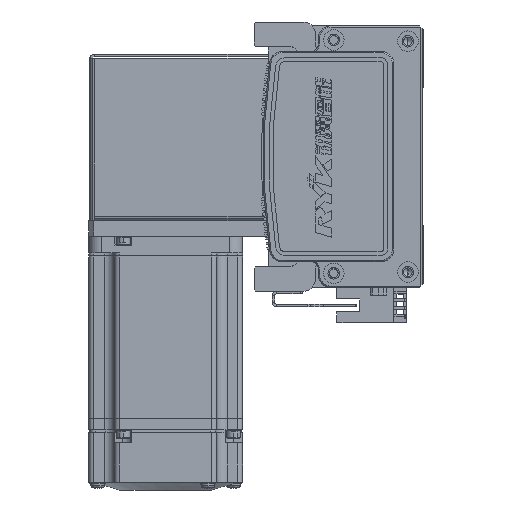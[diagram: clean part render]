
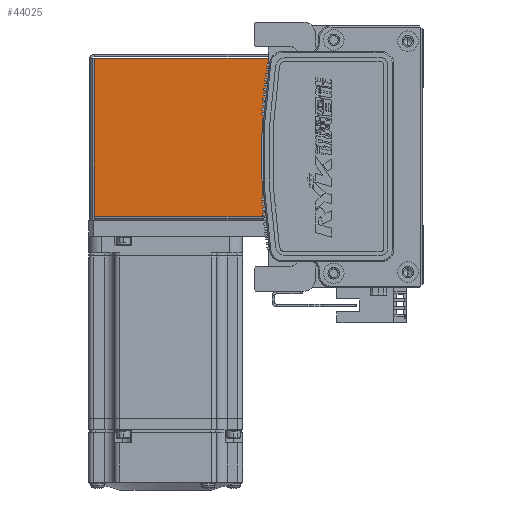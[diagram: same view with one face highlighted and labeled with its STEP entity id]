
A CAD part, left-side view. The second image highlights one B-rep face of the part: STEP entity #44025.
In plain terms, the highlighted planar face has unit normal (-1, 0, 0) as drawn and (0, 0, 1) by its records, which use the part's own axes.
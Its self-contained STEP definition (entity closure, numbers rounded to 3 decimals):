
#416 = LINE ( 'NONE', #2530, #65765 ) ;
#2299 = CARTESIAN_POINT ( 'NONE',  ( 30.763, 0.737, 35. ) ) ;
#2530 = CARTESIAN_POINT ( 'NONE',  ( -30.793, 0., 35. ) ) ;
#4313 = ORIENTED_EDGE ( 'NONE', *, *, #26368, .T. ) ;
#8710 = CARTESIAN_POINT ( 'NONE',  ( -30.793, 0.737, 35. ) ) ;
#13298 = CARTESIAN_POINT ( 'NONE',  ( 30.763, 68.5, 35. ) ) ;
#15943 = FACE_OUTER_BOUND ( 'NONE', #57754, .T. ) ;
#17138 = ORIENTED_EDGE ( 'NONE', *, *, #47052, .F. ) ;
#18166 = DIRECTION ( 'NONE',  ( -1., 0., 0. ) ) ;
#18599 = VECTOR ( 'NONE', #35785, 1000. ) ;
#21020 = LINE ( 'NONE', #28421, #59269 ) ;
#23091 = CARTESIAN_POINT ( 'NONE',  ( -30.793, 68.5, 35. ) ) ;
#25508 = LINE ( 'NONE', #41731, #29477 ) ;
#26019 = EDGE_CURVE ( 'NONE', #63143, #36225, #45676, .T. ) ;
#26368 = EDGE_CURVE ( 'NONE', #36225, #57532, #21020, .T. ) ;
#28421 = CARTESIAN_POINT ( 'NONE',  ( 0., 68.5, 35. ) ) ;
#28467 = EDGE_CURVE ( 'NONE', #63143, #37156, #25508, .T. ) ;
#29477 = VECTOR ( 'NONE', #47264, 1000. ) ;
#30088 = AXIS2_PLACEMENT_3D ( 'NONE', #61956, #36539, #41890 ) ;
#31656 = PLANE ( 'NONE',  #30088 ) ;
#34718 = ORIENTED_EDGE ( 'NONE', *, *, #26019, .T. ) ;
#35785 = DIRECTION ( 'NONE',  ( 0., 1., 0. ) ) ;
#36225 = VERTEX_POINT ( 'NONE', #13298 ) ;
#36539 = DIRECTION ( 'NONE',  ( 0., 0., -1. ) ) ;
#37156 = VERTEX_POINT ( 'NONE', #8710 ) ;
#38155 = ORIENTED_EDGE ( 'NONE', *, *, #28467, .F. ) ;
#41731 = CARTESIAN_POINT ( 'NONE',  ( -32.5, 0.737, 35. ) ) ;
#41890 = DIRECTION ( 'NONE',  ( -1., 0., 0. ) ) ;
#44025 = ADVANCED_FACE ( 'NONE', ( #15943 ), #31656, .F. ) ;
#45371 = CARTESIAN_POINT ( 'NONE',  ( 30.763, 0.737, 35. ) ) ;
#45676 = LINE ( 'NONE', #45371, #18599 ) ;
#47052 = EDGE_CURVE ( 'NONE', #37156, #57532, #416, .T. ) ;
#47264 = DIRECTION ( 'NONE',  ( -1., 0., 0. ) ) ;
#52830 = DIRECTION ( 'NONE',  ( 0., 1., 0. ) ) ;
#57532 = VERTEX_POINT ( 'NONE', #23091 ) ;
#57754 = EDGE_LOOP ( 'NONE', ( #34718, #4313, #17138, #38155 ) ) ;
#59269 = VECTOR ( 'NONE', #18166, 1000. ) ;
#61956 = CARTESIAN_POINT ( 'NONE',  ( 0., 0., 35. ) ) ;
#63143 = VERTEX_POINT ( 'NONE', #2299 ) ;
#65765 = VECTOR ( 'NONE', #52830, 1000. ) ;
